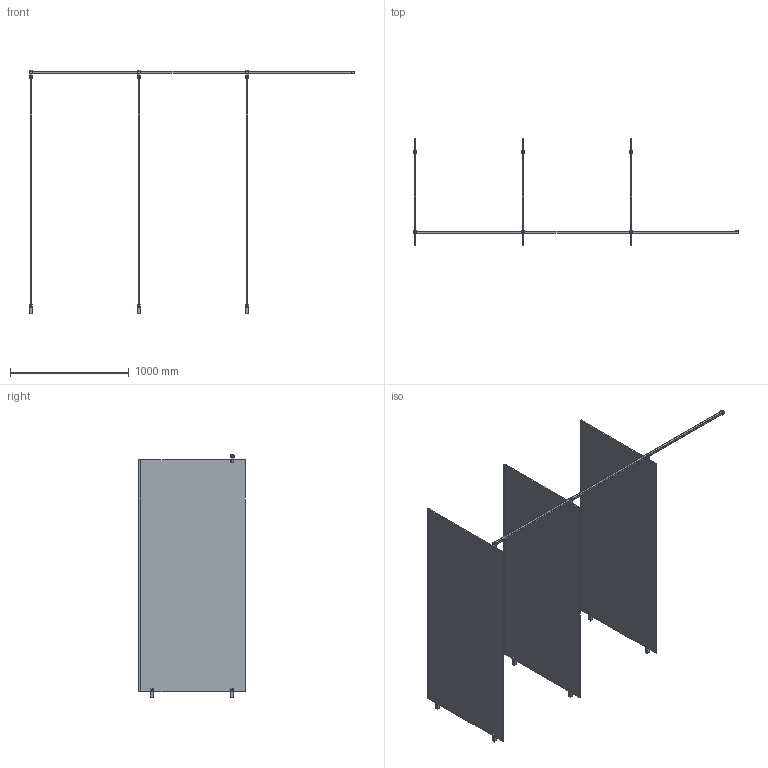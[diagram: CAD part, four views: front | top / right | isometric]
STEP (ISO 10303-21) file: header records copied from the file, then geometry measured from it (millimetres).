
FILE_DESCRIPTION(/* description */ (''),/* implementation_level */ '2;1');
FILE_NAME(/* name */ 'D:\4\GLASS LINE GK-013BC\GLASS LINE GK-013BC-3D.stp',/* time_stamp */ '2020-02-15T15:42:53+03:00',/* author */ ('User'),/* organization */ (''),/* preprocessor_version */ 'ST-DEVELOPER v15.2',/* originating_system */ 'Autodesk Inventor 2014',/* authorisation */ '');
FILE_SCHEMA (('AUTOMOTIVE_DESIGN { 1 0 10303 214 3 1 1 }'));
Length unit declared in the file: millimetre
Products named in the file (8): STB-Q RS-MT-00 (труба); STB-Q RS-MT-04; STB-Q RS-MT-09; Стекло.02 (10P) GL; UP008K.01; Профиль 13х13 (
стекло 10 мм)_2; STB-Q RS-MT-10; GLASS LINE GK-013BC-3D
Bounding box: 2737.5 x 900 x 2046 mm (x, y, z)
Volume: 53412906.3 mm3; surface area: 11692862 mm2
Topology: 20 solids, 20 shells, 470 faces, 1097 edges, 643 vertices
Faces by surface type: plane 200, cylinder 197, sphere 72, cone 1
Full cylindrical faces by diameter (mm): 4 x6, 4.2 x26, 5.2 x1, 6 x12, 12 x6
Entity records: 4215 total; most frequent: DIRECTION 758, CARTESIAN_POINT 678, ORIENTED_EDGE 620, EDGE_CURVE 310, AXIS2_PLACEMENT_3D 280, VERTEX_POINT 200, LINE 198, VECTOR 198
